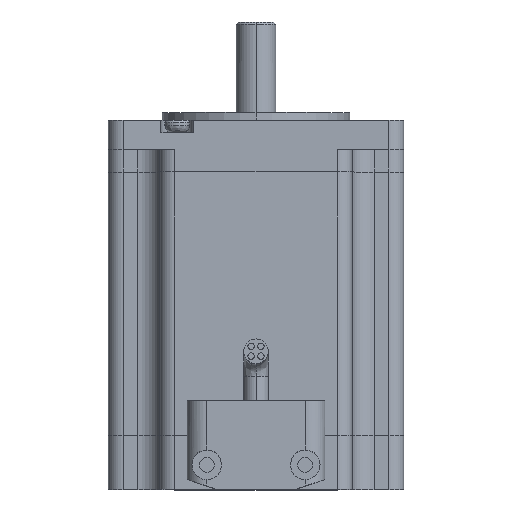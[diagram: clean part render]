
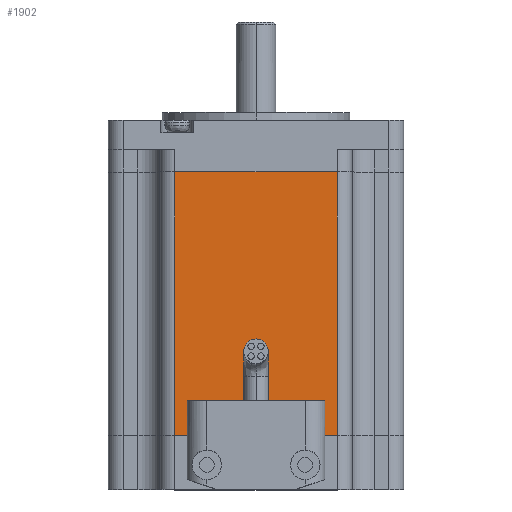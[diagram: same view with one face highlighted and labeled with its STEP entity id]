
A CAD part, top view. The second image highlights one B-rep face of the part: STEP entity #1902.
In plain terms, the highlighted planar face has unit normal (0, 0, 1).
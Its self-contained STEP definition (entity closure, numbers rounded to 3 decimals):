
#127 = EDGE_CURVE ( 'NONE', #7064, #9691, #4247, .T. ) ;
#251 = VECTOR ( 'NONE', #4759, 1000. ) ;
#685 = CARTESIAN_POINT ( 'NONE',  ( 18.3, 53.5, 30.4 ) ) ;
#1185 = AXIS2_PLACEMENT_3D ( 'NONE', #5795, #5754, #5625 ) ;
#1233 = LINE ( 'NONE', #9049, #1995 ) ;
#1466 = VERTEX_POINT ( 'NONE', #3920 ) ;
#1686 = ORIENTED_EDGE ( 'NONE', *, *, #127, .F. ) ;
#1741 = VECTOR ( 'NONE', #4530, 1000. ) ;
#1889 = VECTOR ( 'NONE', #6990, 1000. ) ;
#1902 = ADVANCED_FACE ( 'NONE', ( #2329 ), #8694, .F. ) ;
#1995 = VECTOR ( 'NONE', #5894, 1000. ) ;
#2329 = FACE_OUTER_BOUND ( 'NONE', #7605, .T. ) ;
#3126 = EDGE_CURVE ( 'NONE', #9691, #10109, #8136, .T. ) ;
#3176 = EDGE_CURVE ( 'NONE', #1466, #7064, #6894, .T. ) ;
#3282 = CARTESIAN_POINT ( 'NONE',  ( 18.3, 53.5, 30.4 ) ) ;
#3920 = CARTESIAN_POINT ( 'NONE',  ( -14.7, 0., 30.4 ) ) ;
#4177 = ORIENTED_EDGE ( 'NONE', *, *, #6219, .F. ) ;
#4247 = LINE ( 'NONE', #6092, #251 ) ;
#4530 = DIRECTION ( 'NONE',  ( 0., -1., 0. ) ) ;
#4759 = DIRECTION ( 'NONE',  ( 1., 0., 0. ) ) ;
#5625 = DIRECTION ( 'NONE',  ( -1., 0., 0. ) ) ;
#5754 = DIRECTION ( 'NONE',  ( 0., 0., -1. ) ) ;
#5795 = CARTESIAN_POINT ( 'NONE',  ( 21.3, 53.5, 30.4 ) ) ;
#5894 = DIRECTION ( 'NONE',  ( -1., 0., 0. ) ) ;
#6092 = CARTESIAN_POINT ( 'NONE',  ( -22.2, 53.5, 30.4 ) ) ;
#6219 = EDGE_CURVE ( 'NONE', #10109, #1466, #1233, .T. ) ;
#6822 = CARTESIAN_POINT ( 'NONE',  ( -14.7, 53.5, 30.4 ) ) ;
#6894 = LINE ( 'NONE', #9677, #1889 ) ;
#6990 = DIRECTION ( 'NONE',  ( 0., 1., 0. ) ) ;
#7064 = VERTEX_POINT ( 'NONE', #6822 ) ;
#7168 = ORIENTED_EDGE ( 'NONE', *, *, #3126, .F. ) ;
#7605 = EDGE_LOOP ( 'NONE', ( #7168, #1686, #9765, #4177 ) ) ;
#8136 = LINE ( 'NONE', #685, #1741 ) ;
#8694 = PLANE ( 'NONE',  #1185 ) ;
#8716 = CARTESIAN_POINT ( 'NONE',  ( 18.3, 0., 30.4 ) ) ;
#9049 = CARTESIAN_POINT ( 'NONE',  ( 21.3, 0., 30.4 ) ) ;
#9677 = CARTESIAN_POINT ( 'NONE',  ( -14.7, 53.5, 30.4 ) ) ;
#9691 = VERTEX_POINT ( 'NONE', #3282 ) ;
#9765 = ORIENTED_EDGE ( 'NONE', *, *, #3176, .F. ) ;
#10109 = VERTEX_POINT ( 'NONE', #8716 ) ;
